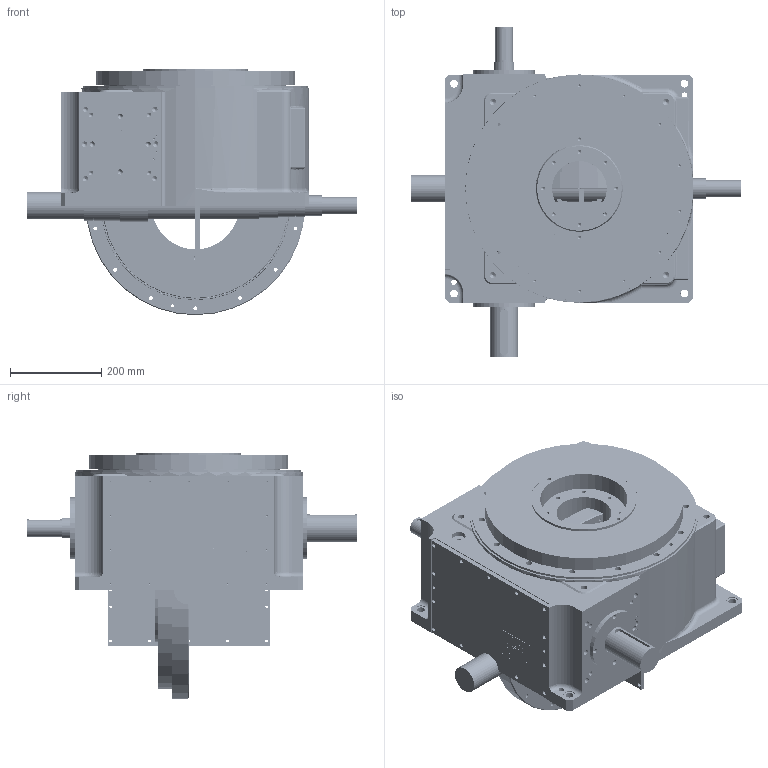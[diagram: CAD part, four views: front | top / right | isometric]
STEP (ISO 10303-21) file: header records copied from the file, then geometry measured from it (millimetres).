
FILE_DESCRIPTION( ( 'Unknown' ), '1' );
FILE_NAME( 'X:/solid edge/TAVOLE/T65/SCHEMI/T65.stp', 'Unknown', ( 'Unknown' ), ( 'Unknown' ), 'PSStep 11.0', 'Unknown', ' ' );
FILE_SCHEMA( ( 'AUTOMOTIVE_DESIGN { 1 0 10303 214 1 1 1 1 }' ) );
Length unit declared in the file: millimetre
Products named in the file (120): cuscinetto t65; Assem1; 212481; KK100D-9_525_T65; D=9.525 211929; D=9.525 211929-oa0; D=9.525 211929-oa1; D=9.525 211929-oa2; D=9.525 211929-oa3; D=9.525 211929-oa4; D=9.525 211929-oa5; D=9.525 211929-oa6; D=9.525 211929-oa7; D=9.525 211929-oa8; D=9.525 211929-oa9; D=9.525 211929-oa10; D=9.525 211929-oa11; D=9.525 211929-oa12; D=9.525 211929-oa13; D=9.525 211929-oa14; D=9.525 211929-oa15; D=9.525 211929-oa16; D=9.525 211929-oa17; D=9.525 211929-oa18; D=9.525 211929-oa19; D=9.525 211929-oa20; D=9.525 211929-oa21; D=9.525 211929-oa22; D=9.525 211929-oa23; D=9.525 211929-oa24; D=9.525 211929-oa25; D=9.525 211929-oa26; D=9.525 211929-oa27; D=9.525 211929-oa28; D=9.525 211929-oa29; D=9.525 211929-oa30; D=9.525 211929-oa31; D=9.525 211929-oa32; D=9.525 211929-oa33; D=9.525 211929-oa34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
Bounding box: 725 x 725 x 540 mm (x, y, z)
Volume: 88315756.6 mm3; surface area: 6525916.1 mm2
Topology: 350 solids, 350 shells, 4782 faces, 12720 edges, 8371 vertices
Faces by surface type: plane 2629, cylinder 1134, sphere 375, extrusion 298, cone 209, torus 117, bspline 20
Full cylindrical faces by diameter (mm): 2 x9, 2.459 x3, 2.5 x4, 3 x4, 4.134 x60, 5.5 x40, 6.647 x38, 8.376 x30, 8.5 x48, 9.5 x28, 9.7 x321, 10 x6, 10.106 x16, 11.835 x16, 12 x12, 13.5 x42, 14 x8, 17 x8, 26 x8, 30 x2, 38 x2, 45 x2, 46.5 x2, 50 x4, 55 x2, 60 x4, 61.5 x3, 62 x2, 65 x4, 70 x2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
Entity records: 105354 total; most frequent: CARTESIAN_POINT 38068, ORIENTED_EDGE 9684, DIRECTION 8609, EDGE_CURVE 4842, VERTEX_POINT 3490, EDGE_LOOP 3087, AXIS2_PLACEMENT_3D 3006, VECTOR 2597
